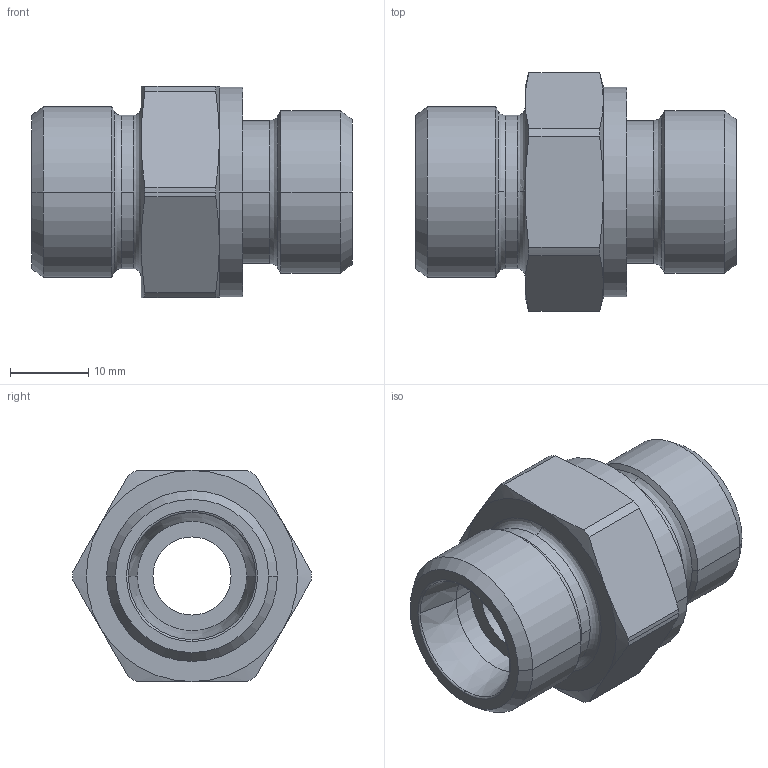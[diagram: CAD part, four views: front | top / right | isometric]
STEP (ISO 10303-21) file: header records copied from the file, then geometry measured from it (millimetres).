
FILE_DESCRIPTION((''),'2;1');
FILE_NAME('100518.stp','2007-10-30T14:15:56',(''),(''),'AutoCAD STEP 2000i','AutoCAD 2000i',', , ');
FILE_SCHEMA(('CONFIG_CONTROL_DESIGN'));
Length unit declared in the file: millimetre
Products named in the file (2): 100518.0; CHIAVE SMUSSATA#0
Assembly tree (1 placements, depth 2):
  100518.0
    CHIAVE SMUSSATA#0
Bounding box: 41 x 30.5 x 27 mm (x, y, z)
Volume: 12979.8 mm3; surface area: 5628.5 mm2
Topology: 1 solids, 1 shells, 75 faces, 185 edges, 117 vertices
Faces by surface type: cylinder 24, cone 24, plane 13, bspline 12, torus 2
Entity records: 2835 total; most frequent: CARTESIAN_POINT 955, DIRECTION 410, ORIENTED_EDGE 370, EDGE_CURVE 185, AXIS2_PLACEMENT_3D 184, CIRCLE 119, VERTEX_POINT 117, EDGE_LOOP 82
